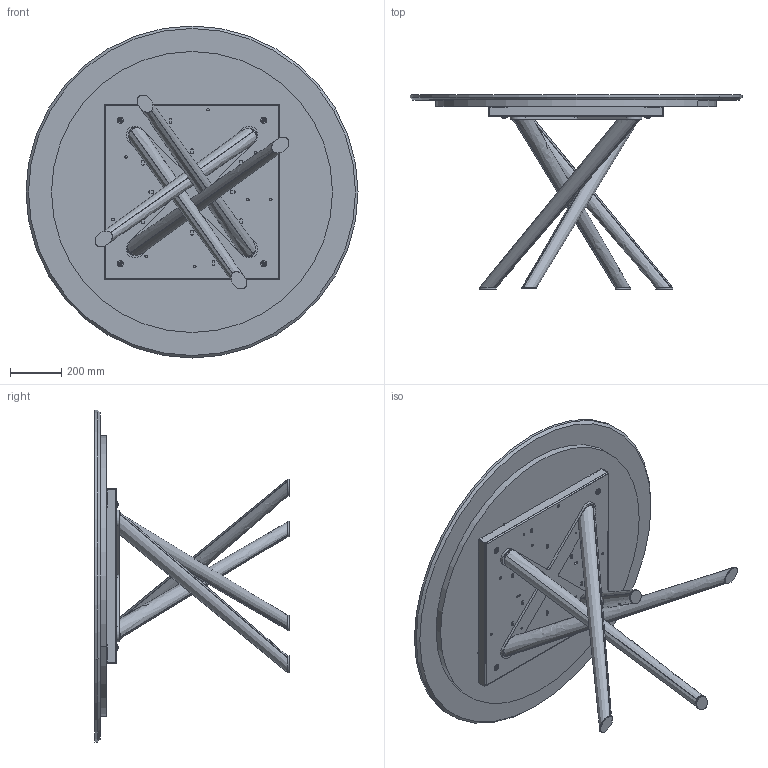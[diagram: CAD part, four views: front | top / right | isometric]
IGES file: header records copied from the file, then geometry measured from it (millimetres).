
Start section: SolidWorks IGES file using analytic representation for surfaces
Global section: file name: Y:\eforma\TECNICO\SOLIDWORKS\E-FORMA\1-TAVOLI\BALY\02 parts\BA05M.IGS; native system: SolidWorks 2022; preprocessor: SolidWorks 2022; author: eforma.tech; date: 240808.083626; units: millimetre
Bounding box: 1300 x 760 x 1300 mm (x, y, z)
Volume: 54776021.3 mm3; surface area: 7514047.3 mm2
Topology: 24 solids, 24 shells, 715 faces, 1831 edges, 1155 vertices
Faces by surface type: revolution 395, plane 312, bspline 8
